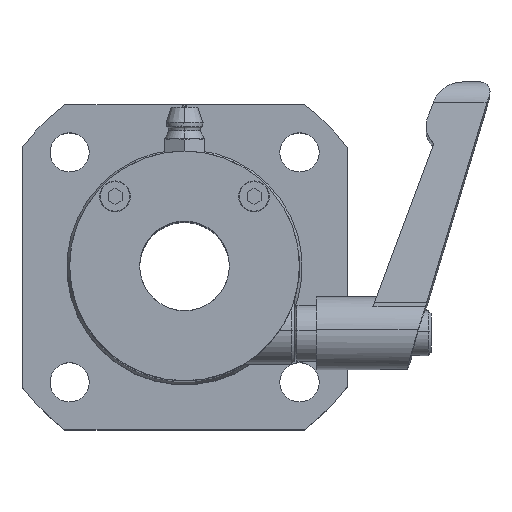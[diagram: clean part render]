
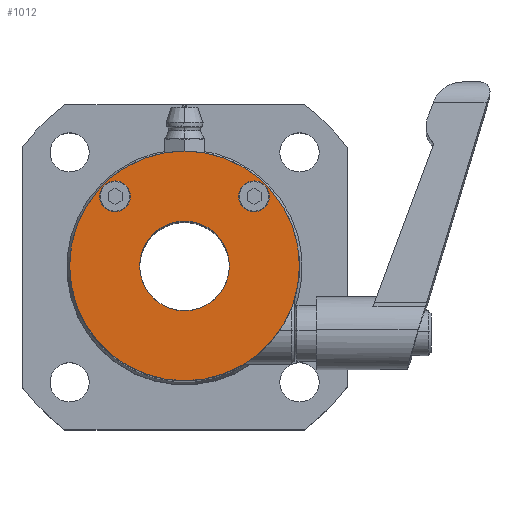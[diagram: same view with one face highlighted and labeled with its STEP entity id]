
A CAD part, top view. The second image highlights one B-rep face of the part: STEP entity #1012.
In plain terms, the highlighted planar face has unit normal (0, 0, 1).
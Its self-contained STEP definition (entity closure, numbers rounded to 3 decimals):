
#58 = AXIS2_PLACEMENT_3D ( 'NONE', #8730, #1805, #10497 ) ;
#102 = DIRECTION ( 'NONE',  ( 1., 0., 0. ) ) ;
#403 = AXIS2_PLACEMENT_3D ( 'NONE', #8570, #5813, #3179 ) ;
#450 = CARTESIAN_POINT ( 'NONE',  ( -3.384, -0.472, 48.5 ) ) ;
#706 = AXIS2_PLACEMENT_3D ( 'NONE', #8319, #10939, #3201 ) ;
#799 = VERTEX_POINT ( 'NONE', #1020 ) ;
#949 = VERTEX_POINT ( 'NONE', #8196 ) ;
#1012 = ADVANCED_FACE ( 'NONE', ( #4466, #6920, #10588, #2788 ), #10359, .T. ) ;
#1020 = CARTESIAN_POINT ( 'NONE',  ( 6.266, 11.928, 48.5 ) ) ;
#1109 = CARTESIAN_POINT ( 'NONE',  ( -3.384, -0.472, 48.5 ) ) ;
#1200 = AXIS2_PLACEMENT_3D ( 'NONE', #450, #3840, #10760 ) ;
#1223 = VERTEX_POINT ( 'NONE', #4118 ) ;
#1253 = ORIENTED_EDGE ( 'NONE', *, *, #2409, .F. ) ;
#1441 = CIRCLE ( 'NONE', #2135, 2.75 ) ;
#1617 = DIRECTION ( 'NONE',  ( 0., 0., 1. ) ) ;
#1805 = DIRECTION ( 'NONE',  ( 0., 0., 1. ) ) ;
#1843 = ORIENTED_EDGE ( 'NONE', *, *, #5733, .T. ) ;
#1853 = EDGE_CURVE ( 'NONE', #949, #4982, #1441, .T. ) ;
#2135 = AXIS2_PLACEMENT_3D ( 'NONE', #9669, #10581, #6328 ) ;
#2312 = VERTEX_POINT ( 'NONE', #6351 ) ;
#2409 = EDGE_CURVE ( 'NONE', #4982, #949, #6867, .T. ) ;
#2585 = ORIENTED_EDGE ( 'NONE', *, *, #1853, .F. ) ;
#2788 = FACE_BOUND ( 'NONE', #6408, .T. ) ;
#2870 = ORIENTED_EDGE ( 'NONE', *, *, #8778, .F. ) ;
#3109 = DIRECTION ( 'NONE',  ( 0., 0., 1. ) ) ;
#3179 = DIRECTION ( 'NONE',  ( 1., 0., 0. ) ) ;
#3201 = DIRECTION ( 'NONE',  ( 1., 0., 0. ) ) ;
#3327 = CIRCLE ( 'NONE', #1200, 8. ) ;
#3668 = EDGE_CURVE ( 'NONE', #7611, #9317, #9713, .T. ) ;
#3695 = VERTEX_POINT ( 'NONE', #8910 ) ;
#3840 = DIRECTION ( 'NONE',  ( 0., 0., 1. ) ) ;
#4013 = CARTESIAN_POINT ( 'NONE',  ( 9.016, 11.928, 48.5 ) ) ;
#4118 = CARTESIAN_POINT ( 'NONE',  ( 11.766, 11.928, 48.5 ) ) ;
#4157 = EDGE_LOOP ( 'NONE', ( #1843, #10740 ) ) ;
#4466 = FACE_BOUND ( 'NONE', #5232, .T. ) ;
#4894 = CIRCLE ( 'NONE', #58, 2.75 ) ;
#4982 = VERTEX_POINT ( 'NONE', #7864 ) ;
#5033 = DIRECTION ( 'NONE',  ( 1., 0., 0. ) ) ;
#5072 = CARTESIAN_POINT ( 'NONE',  ( 17.116, -0.472, 48.5 ) ) ;
#5232 = EDGE_LOOP ( 'NONE', ( #7702, #10179 ) ) ;
#5733 = EDGE_CURVE ( 'NONE', #9317, #7611, #6416, .T. ) ;
#5774 = AXIS2_PLACEMENT_3D ( 'NONE', #8699, #7914, #102 ) ;
#5813 = DIRECTION ( 'NONE',  ( 0., 0., 1. ) ) ;
#6319 = CARTESIAN_POINT ( 'NONE',  ( -3.384, -0.472, 48.5 ) ) ;
#6328 = DIRECTION ( 'NONE',  ( 1., 0., 0. ) ) ;
#6351 = CARTESIAN_POINT ( 'NONE',  ( 4.616, -0.472, 48.5 ) ) ;
#6408 = EDGE_LOOP ( 'NONE', ( #10998, #2870 ) ) ;
#6416 = CIRCLE ( 'NONE', #7847, 20.5 ) ;
#6573 = EDGE_CURVE ( 'NONE', #1223, #799, #8655, .T. ) ;
#6831 = AXIS2_PLACEMENT_3D ( 'NONE', #6319, #3109, #9029 ) ;
#6867 = CIRCLE ( 'NONE', #403, 2.75 ) ;
#6920 = FACE_BOUND ( 'NONE', #8476, .T. ) ;
#6971 = CARTESIAN_POINT ( 'NONE',  ( -23.884, -0.472, 48.5 ) ) ;
#6977 = EDGE_CURVE ( 'NONE', #799, #1223, #4894, .T. ) ;
#7611 = VERTEX_POINT ( 'NONE', #5072 ) ;
#7702 = ORIENTED_EDGE ( 'NONE', *, *, #6977, .F. ) ;
#7847 = AXIS2_PLACEMENT_3D ( 'NONE', #1109, #8115, #7956 ) ;
#7864 = CARTESIAN_POINT ( 'NONE',  ( -18.534, 11.928, 48.5 ) ) ;
#7914 = DIRECTION ( 'NONE',  ( 0., 0., 1. ) ) ;
#7956 = DIRECTION ( 'NONE',  ( 1., 0., 0. ) ) ;
#8115 = DIRECTION ( 'NONE',  ( 0., 0., 1. ) ) ;
#8121 = AXIS2_PLACEMENT_3D ( 'NONE', #4013, #1617, #5033 ) ;
#8189 = EDGE_CURVE ( 'NONE', #3695, #2312, #3327, .T. ) ;
#8196 = CARTESIAN_POINT ( 'NONE',  ( -13.034, 11.928, 48.5 ) ) ;
#8319 = CARTESIAN_POINT ( 'NONE',  ( -3.384, -0.472, 48.5 ) ) ;
#8433 = CIRCLE ( 'NONE', #706, 8. ) ;
#8476 = EDGE_LOOP ( 'NONE', ( #1253, #2585 ) ) ;
#8570 = CARTESIAN_POINT ( 'NONE',  ( -15.784, 11.928, 48.5 ) ) ;
#8655 = CIRCLE ( 'NONE', #8121, 2.75 ) ;
#8699 = CARTESIAN_POINT ( 'NONE',  ( -3.384, -0.472, 48.5 ) ) ;
#8730 = CARTESIAN_POINT ( 'NONE',  ( 9.016, 11.928, 48.5 ) ) ;
#8778 = EDGE_CURVE ( 'NONE', #2312, #3695, #8433, .T. ) ;
#8910 = CARTESIAN_POINT ( 'NONE',  ( -11.384, -0.472, 48.5 ) ) ;
#9029 = DIRECTION ( 'NONE',  ( 1., 0., 0. ) ) ;
#9317 = VERTEX_POINT ( 'NONE', #6971 ) ;
#9669 = CARTESIAN_POINT ( 'NONE',  ( -15.784, 11.928, 48.5 ) ) ;
#9713 = CIRCLE ( 'NONE', #6831, 20.5 ) ;
#10179 = ORIENTED_EDGE ( 'NONE', *, *, #6573, .F. ) ;
#10359 = PLANE ( 'NONE',  #5774 ) ;
#10497 = DIRECTION ( 'NONE',  ( 1., 0., 0. ) ) ;
#10581 = DIRECTION ( 'NONE',  ( 0., 0., 1. ) ) ;
#10588 = FACE_OUTER_BOUND ( 'NONE', #4157, .T. ) ;
#10740 = ORIENTED_EDGE ( 'NONE', *, *, #3668, .T. ) ;
#10760 = DIRECTION ( 'NONE',  ( 1., 0., 0. ) ) ;
#10939 = DIRECTION ( 'NONE',  ( 0., 0., 1. ) ) ;
#10998 = ORIENTED_EDGE ( 'NONE', *, *, #8189, .F. ) ;
